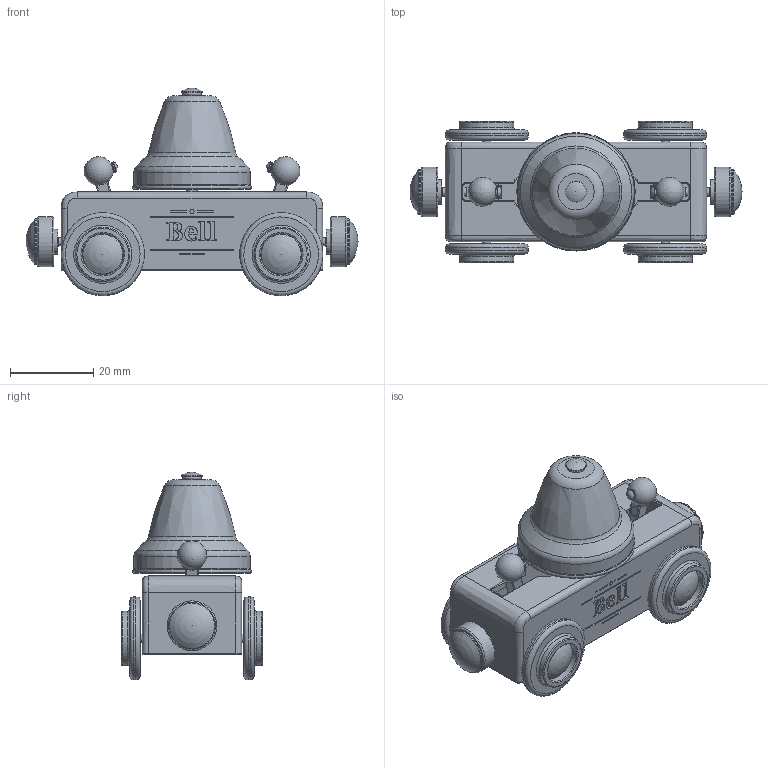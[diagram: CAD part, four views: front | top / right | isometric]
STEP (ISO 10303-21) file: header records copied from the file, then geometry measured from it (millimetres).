
FILE_DESCRIPTION( ( '' ), ' ' );
FILE_NAME( '/vol/tmp/translate-3757958343625060646/58415ccfc1ad3a10bad08052.step', '2016-12-02T11:36:48', ( '' ), ( '' ), ' ', ' ', ' ' );
FILE_SCHEMA( ( 'AUTOMOTIVE_DESIGN { 1 0 10303 214 1 1 1 1 }' ) );
Length unit declared in the file: metre
Products named in the file (25): Red Wheel <1>; Wheel_RedTranslucent; Hubcap_ShinyChrome; Red Wheel <2>; Red Wheels on axle <2>; Axle_ShinyChrome; Red Wheels on axle <1>; Assem1; Base_ShinyBlack; Bell_BlastedChrome; BellCap_ShinyChrome; O-ring_Rubber; BellHolder_ShinyChrome; BellClapper_LightOrange; BellClapperPin_ShinyChrome; BellClapper - mirror_LightOrange; BellClapperPin - mirror_ShinyChrome; CouplingHinge_ShinyChrome; CouplingHolder_RedTranslucent; CouplingMagnet_ShinyChrome; CouplingHinge - mirror_ShinyChrome; CouplingHolder - mirror_RedTranslucent; CouplingMagnet - mirror_ShinyChrome
Assembly tree (31 placements, depth 4):
  Assem1
    Base_ShinyBlack
    Bell_BlastedChrome
    BellCap_ShinyChrome
    O-ring_Rubber
    BellHolder_ShinyChrome
    BellClapper_LightOrange
    BellClapperPin_ShinyChrome
    BellClapper - mirror_LightOrange
    BellClapperPin - mirror_ShinyChrome
    CouplingHinge_ShinyChrome
    CouplingHolder_RedTranslucent
    CouplingMagnet_ShinyChrome
    CouplingHinge - mirror_ShinyChrome
    CouplingHolder - mirror_RedTranslucent
    CouplingMagnet - mirror_ShinyChrome
    Red Wheels on axle <1>
      Axle_ShinyChrome
      Red Wheel <1>
        Wheel_RedTranslucent
        Hubcap_ShinyChrome
      Red Wheel <2>
        Wheel_RedTranslucent
        Hubcap_ShinyChrome
    Red Wheels on axle <2>
      Axle_ShinyChrome
      Red Wheel <1>
        Wheel_RedTranslucent
        Hubcap_ShinyChrome
      Red Wheel <2>
        Wheel_RedTranslucent
        Hubcap_ShinyChrome
Bounding box: 80 x 34 x 50 mm (x, y, z)
Volume: 17255.9 mm3; surface area: 22249.3 mm2
Topology: 25 solids, 25 shells, 602 faces, 1461 edges, 940 vertices
Faces by surface type: plane 223, extrusion 182, cylinder 83, torus 61, bspline 38, sphere 11, offset 2, cone 2
Full cylindrical faces by diameter (mm): 1 x2, 1.75 x4, 2 x10, 2.5 x7, 2.75 x1, 3 x2, 5 x1, 6 x4, 10 x8, 11 x2, 12 x2, 13 x4, 20 x4, 26.5 x1, 28 x1
Entity records: 23524 total; most frequent: CARTESIAN_POINT 6874, ORIENTED_EDGE 2508, DIRECTION 1938, EDGE_CURVE 1254, VERTEX_POINT 866, VECTOR 794, EDGE_LOOP 682, FACE_OUTER_BOUND 622
